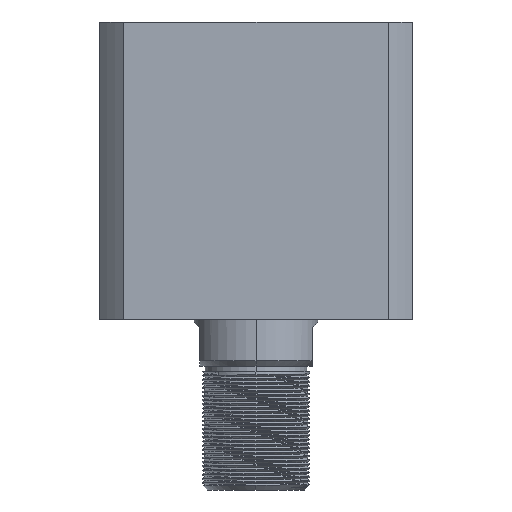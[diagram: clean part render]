
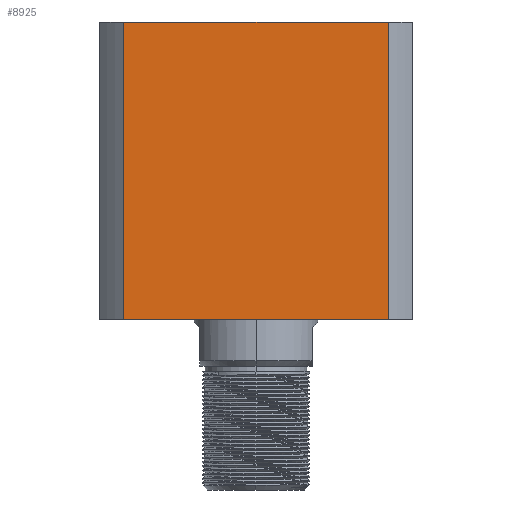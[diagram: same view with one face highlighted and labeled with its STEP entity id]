
A CAD part, front view. The second image highlights one B-rep face of the part: STEP entity #8925.
In plain terms, the highlighted planar face has unit normal (0, -1, 0) as drawn and (-1, 0, 0) by its records, which use the part's own axes.
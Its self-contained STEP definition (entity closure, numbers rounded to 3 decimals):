
#429 = ORIENTED_EDGE ( 'NONE', *, *, #16301, .F. ) ;
#750 = LINE ( 'NONE', #10977, #17131 ) ;
#2446 = VECTOR ( 'NONE', #4754, 1000. ) ;
#2547 = CARTESIAN_POINT ( 'NONE',  ( -57., 47.971, 0. ) ) ;
#2935 = LINE ( 'NONE', #20403, #2446 ) ;
#3473 = VECTOR ( 'NONE', #11161, 1000. ) ;
#4174 = ORIENTED_EDGE ( 'NONE', *, *, #4572, .F. ) ;
#4572 = EDGE_CURVE ( 'NONE', #11269, #9075, #11177, .T. ) ;
#4754 = DIRECTION ( 'NONE',  ( 0., -1., 0. ) ) ;
#5345 = EDGE_CURVE ( 'NONE', #6216, #12913, #7691, .T. ) ;
#6065 = CARTESIAN_POINT ( 'NONE',  ( -57., -47.971, 108. ) ) ;
#6216 = VERTEX_POINT ( 'NONE', #2547 ) ;
#6421 = EDGE_CURVE ( 'NONE', #6216, #9075, #2935, .T. ) ;
#6532 = PLANE ( 'NONE',  #16953 ) ;
#6600 = DIRECTION ( 'NONE',  ( 0., 0., -1. ) ) ;
#7691 = LINE ( 'NONE', #9571, #3473 ) ;
#7854 = DIRECTION ( 'NONE',  ( 0., -1., 0. ) ) ;
#8147 = DIRECTION ( 'NONE',  ( 1., 0., 0. ) ) ;
#8925 = ADVANCED_FACE ( 'NONE', ( #9734 ), #6532, .F. ) ;
#9075 = VERTEX_POINT ( 'NONE', #19494 ) ;
#9330 = CARTESIAN_POINT ( 'NONE',  ( -57., 57., 108. ) ) ;
#9571 = CARTESIAN_POINT ( 'NONE',  ( -57., 47.971, -192. ) ) ;
#9734 = FACE_OUTER_BOUND ( 'NONE', #18795, .T. ) ;
#10977 = CARTESIAN_POINT ( 'NONE',  ( -57., 57., 108. ) ) ;
#11161 = DIRECTION ( 'NONE',  ( 0., 0., 1. ) ) ;
#11177 = LINE ( 'NONE', #14145, #19050 ) ;
#11269 = VERTEX_POINT ( 'NONE', #6065 ) ;
#11600 = ORIENTED_EDGE ( 'NONE', *, *, #5345, .F. ) ;
#12913 = VERTEX_POINT ( 'NONE', #19524 ) ;
#14145 = CARTESIAN_POINT ( 'NONE',  ( -57., -47.971, -192. ) ) ;
#16301 = EDGE_CURVE ( 'NONE', #12913, #11269, #750, .T. ) ;
#16953 = AXIS2_PLACEMENT_3D ( 'NONE', #9330, #8147, #19167 ) ;
#17131 = VECTOR ( 'NONE', #7854, 1000. ) ;
#18795 = EDGE_LOOP ( 'NONE', ( #11600, #19969, #4174, #429 ) ) ;
#19050 = VECTOR ( 'NONE', #6600, 1000. ) ;
#19167 = DIRECTION ( 'NONE',  ( 0., 1., 0. ) ) ;
#19494 = CARTESIAN_POINT ( 'NONE',  ( -57., -47.971, 0. ) ) ;
#19524 = CARTESIAN_POINT ( 'NONE',  ( -57., 47.971, 108. ) ) ;
#19969 = ORIENTED_EDGE ( 'NONE', *, *, #6421, .T. ) ;
#20403 = CARTESIAN_POINT ( 'NONE',  ( -57., 57., 0. ) ) ;
